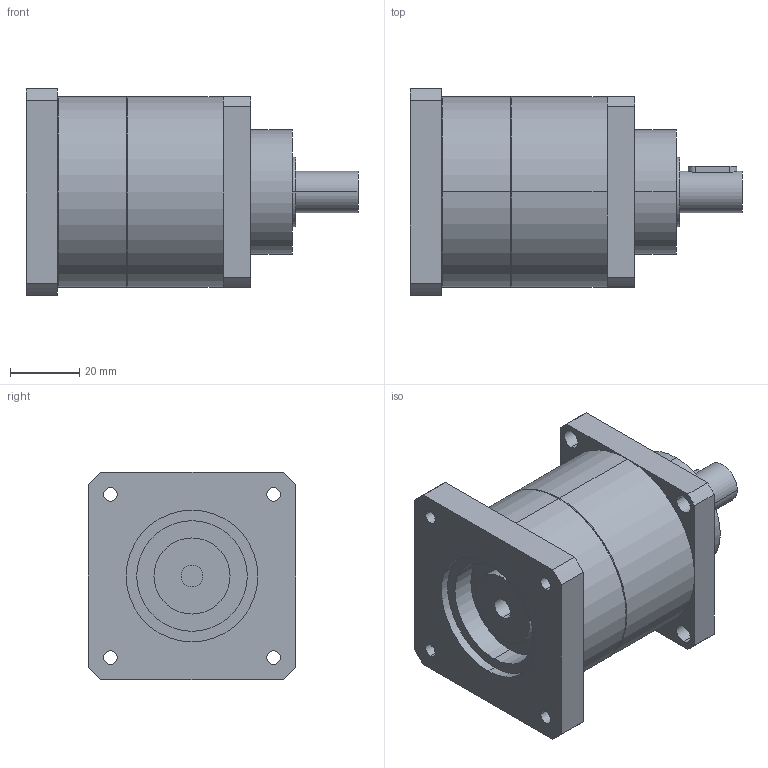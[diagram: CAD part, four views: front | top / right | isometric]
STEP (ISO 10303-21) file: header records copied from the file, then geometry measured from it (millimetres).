
FILE_DESCRIPTION(('CoCreate Modeling STEP Export'),'2;1');
FILE_NAME('GPT55_ig-3-4-5-7-10_12_B5A_6.35_P28.stp','2014-08-25T14:32:19',(''),(''),'CoCreate Modeling STEP processor for AP214 (Solid Model)','CoCreate Modeling 16.00C 25-Feb-2009 (C) Parametric Technology GmbH','');
FILE_SCHEMA(('AUTOMOTIVE_DESIGN { 1 0 10303 214 1 1 1 1 }'));
Length unit declared in the file: millimetre
Products named in the file (2): GPT55_ig-3-4-5-7-10_12_B5A_6.35_P28
Assembly tree (1 placements, depth 2):
  GPT55_ig-3-4-5-7-10_12_B5A_6.35_P28
    GPT55_ig-3-4-5-7-10_12_B5A_6.35_P28
Bounding box: 96 x 60 x 60 mm (x, y, z)
Volume: 175936.1 mm3; surface area: 25268.9 mm2
Topology: 1 solids, 1 shells, 77 faces, 204 edges, 139 vertices
Faces by surface type: cylinder 46, plane 27, cone 4
Entity records: 2515 total; most frequent: CARTESIAN_POINT 710, ORIENTED_EDGE 408, DIRECTION 318, EDGE_CURVE 204, VERTEX_POINT 139, AXIS2_PLACEMENT_3D 117, EDGE_LOOP 103, VECTOR 84
